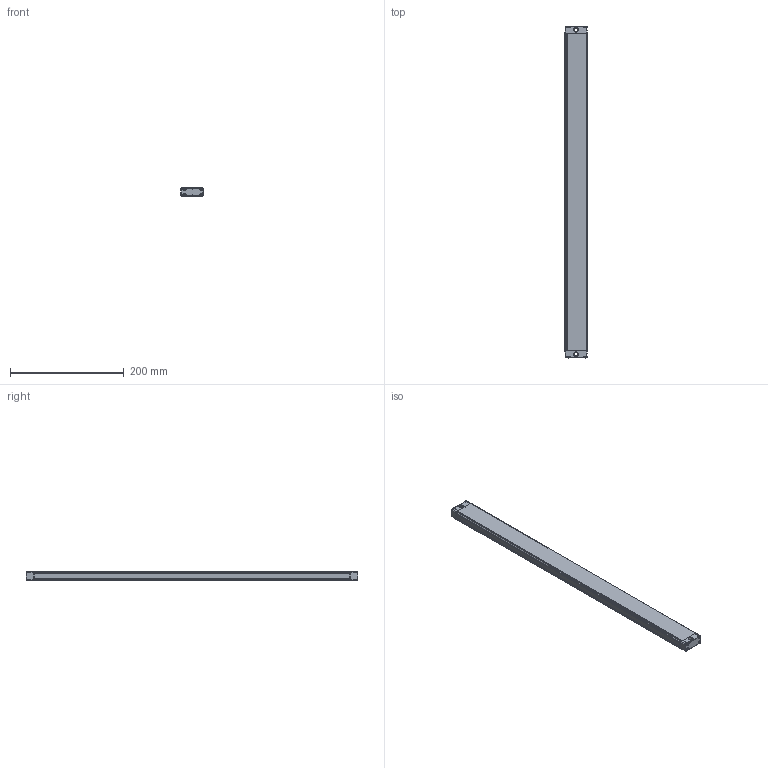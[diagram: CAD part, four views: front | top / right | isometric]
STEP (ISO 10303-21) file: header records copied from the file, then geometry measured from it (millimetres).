
FILE_DESCRIPTION((''),'2;1');
FILE_NAME('EB15--3610_ASM','2021-07-22T10:11:47',('18720616900'),(''),'CREO PARAMETRIC BY PTC INC, 2019010','CREO PARAMETRIC BY PTC INC, 2019010','');
FILE_SCHEMA(('CONFIG_CONTROL_DESIGN'));
Length unit declared in the file: millimetre
Products named in the file (6): EB15-00; EB15-000; EB15-0003; EB15-0004; ST-3-12; EB15--3610_ASM
Assembly tree (12 placements, depth 2):
  EB15--3610_ASM
    EB15-00
    EB15-000
    EB15-0003
    EB15-0004
    ST-3-12  x8
Bounding box: 39.15 x 585 x 15.8 mm (x, y, z)
Volume: 351266.1 mm3; surface area: 87666.3 mm2
Topology: 12 solids, 12 shells, 827 faces, 2188 edges, 1368 vertices
Faces by surface type: plane 242, bspline 188, cone 176, cylinder 165, torus 40, sphere 16
Entity records: 16044 total; most frequent: CARTESIAN_POINT 7660, ORIENTED_EDGE 1804, DIRECTION 1603, EDGE_CURVE 902, AXIS2_PLACEMENT_3D 577, VERTEX_POINT 563, VECTOR 449, LINE 449
